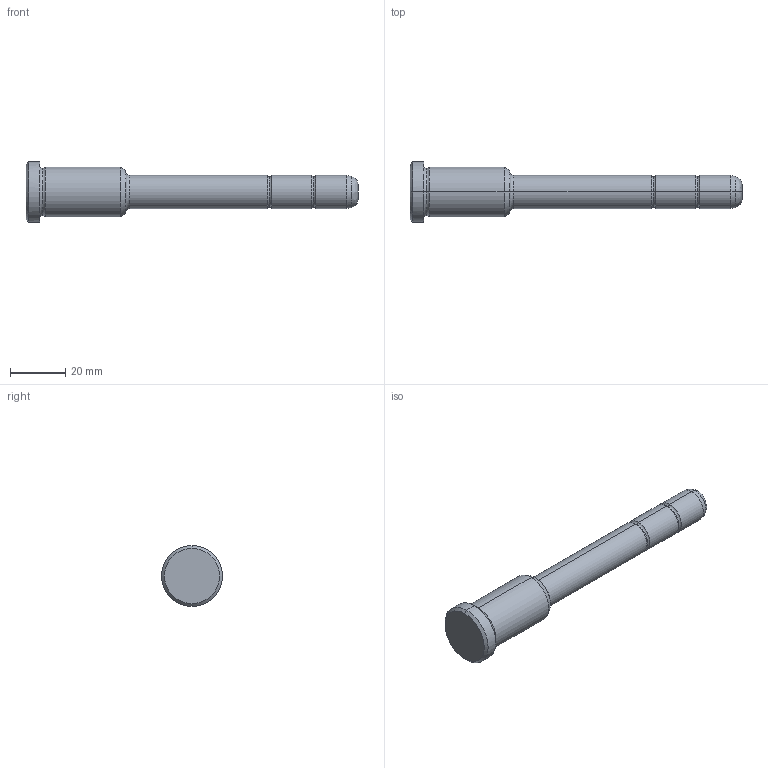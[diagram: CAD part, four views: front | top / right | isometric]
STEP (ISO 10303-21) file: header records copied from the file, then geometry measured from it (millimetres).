
FILE_DESCRIPTION(('CATIA V5 STEP Exchange'),'2;1');
FILE_NAME('C:\Users\Utente\Desktop\IO LAVORO\3D X SITO CF\X SITO\PLASTICA\351\351-12X36X120.stp','2021-08-17T12:32:31+00:00',('none'),('none'),'CATIA Version 5 Release 20 GA (IN-10)','CATIA V5 STEP AP203','none');
FILE_SCHEMA(('CONFIG_CONTROL_DESIGN'));
Length unit declared in the file: millimetre
Products named in the file (1): 351-12X36X120
Bounding box: 120 x 22 x 22 mm (x, y, z)
Volume: 19027.5 mm3; surface area: 5878.1 mm2
Topology: 1 solids, 1 shells, 36 faces, 102 edges, 70 vertices
Faces by surface type: torus 14, cylinder 10, cone 6, plane 4, bspline 2
Entity records: 1308 total; most frequent: CARTESIAN_POINT 375, ORIENTED_EDGE 204, DIRECTION 152, AXIS2_PLACEMENT_3D 103, EDGE_CURVE 102, VERTEX_POINT 70, CIRCLE 68, EDGE_LOOP 38
